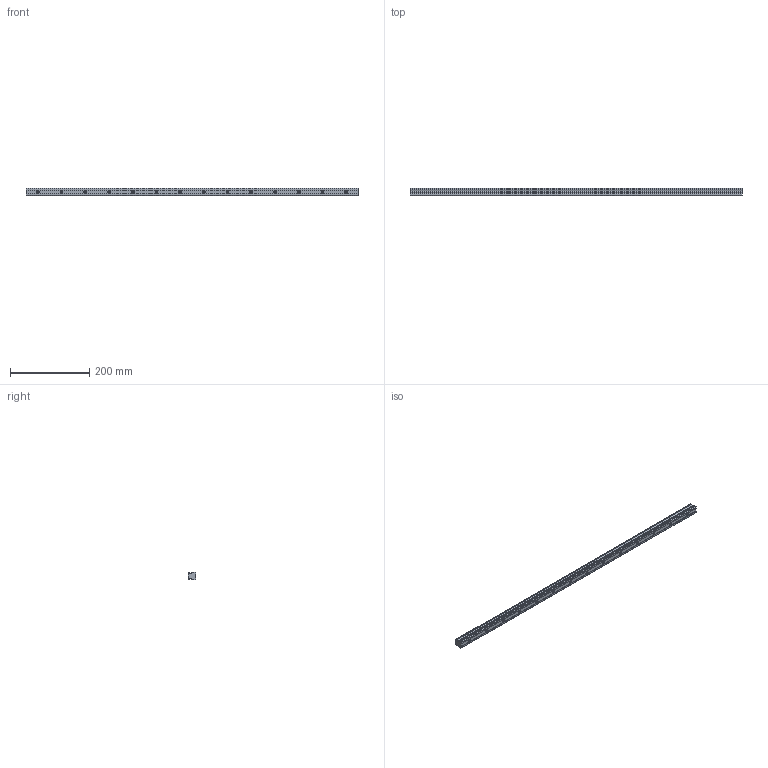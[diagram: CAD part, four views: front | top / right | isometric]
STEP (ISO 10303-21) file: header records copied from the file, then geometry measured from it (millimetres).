
FILE_DESCRIPTION (( 'STEP AP203' ), '1' );
FILE_NAME ('L1018.20R-0840.step', '2023-08-06T09:06:25', ( '' ), ( '' ), 'SwSTEP 2.0', 'SolidWorks 2019', '' );
FILE_SCHEMA (( 'CONFIG_CONTROL_DESIGN' ));
Length unit declared in the file: millimetre
Products named in the file (1): L1018.20R-0840
Bounding box: 840 x 19.3 x 20 mm (x, y, z)
Volume: 266387.7 mm3; surface area: 71535.4 mm2
Topology: 1 solids, 1 shells, 155 faces, 361 edges, 208 vertices
Faces by surface type: cylinder 59, cone 56, plane 40
Entity records: 4274 total; most frequent: DIRECTION 791, CARTESIAN_POINT 697, ORIENTED_EDGE 666, EDGE_CURVE 333, AXIS2_PLACEMENT_3D 302, VERTEX_POINT 208, VECTOR 187, LINE 187
